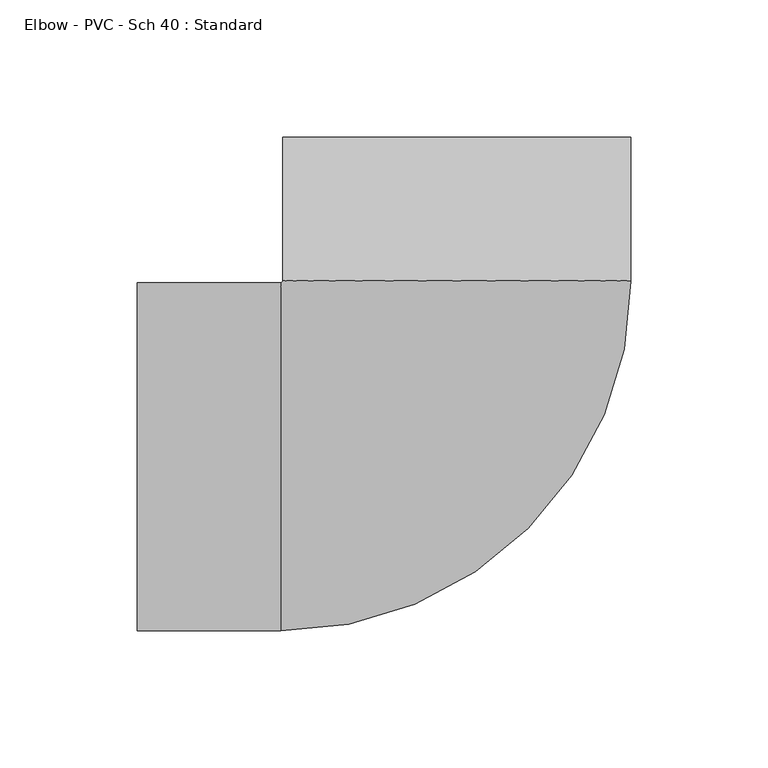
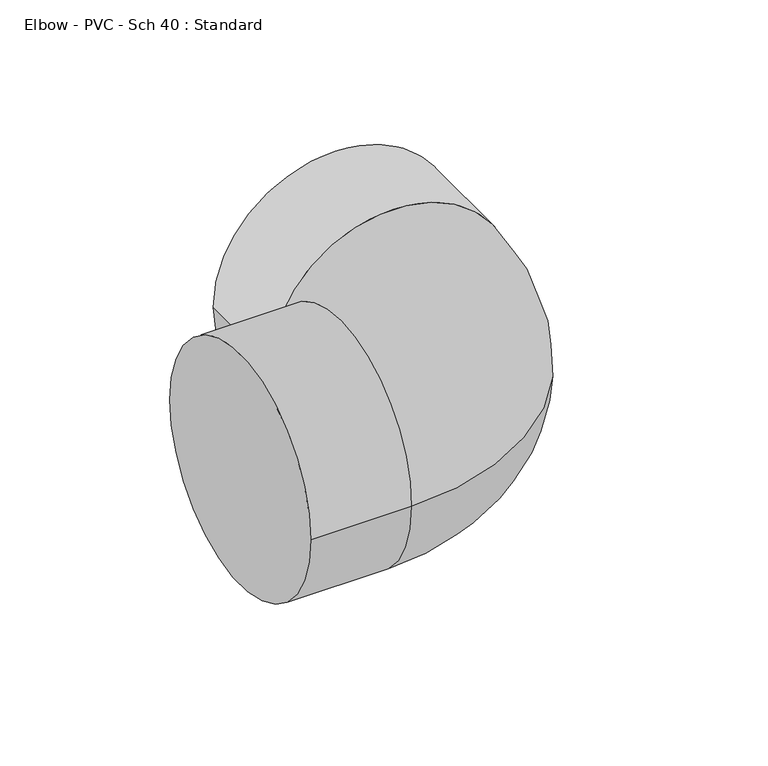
"""IFC4 building model written with IfcOpenShell, lengths in millimetres: pipe fitting geometry, Elbow - PVC - Sch 40 : Standard."""

from ifc_helpers import new_model, si_unit, point, frame, origin, place, context, project, spatial, circle_curve, ellipse_curve, trimmed, source, transform, mapped, element, save
from ifc_brep_helpers import plane_surface, cylinder_surface, revolved_surface, advanced_brep


def elbow_pvc_sch_40_standard_1e4faa0e(model_context):
    return source(origin(), model_context, "Body", "AdvancedBrep", [
        advanced_brep(
        [(-116.6281483, -63.5, 0.0), (-116.6281483, 63.5, 0.0), (-64.2279483, -63.5, 0.0), (-64.2279483, 63.5, 0.0), (-63.4341987, 64.2929372, 0.0), (63.5657347, 64.162892, 0.0), (63.6193914, 116.5630645, 0.0), (-63.380542, 116.6931097, 0.0)],
        [
            (0, 1, circle_curve(frame((-116.6281483, 0.0, 0.0), z_axis=(-1.0, 0.0, 0.0), x_axis=(0.0, 1.0, 0.0)), 63.5)),
            (1, 0, circle_curve(frame((-116.6281483, 0.0, 0.0), z_axis=(-1.0, 0.0, 0.0), x_axis=(0.0, 1.0, 0.0)), 63.5)),
            (0, 2),
            (2, 3, circle_curve(frame((-64.2279483, 0.0, 0.0), z_axis=(-1.0, 0.0, 0.0), x_axis=(0.0, 1.0, 0.0)), 63.5)),
            (3, 1),
            (3, 2, circle_curve(frame((-64.2279483, 0.0, 0.0), z_axis=(-1.0, 0.0, 0.0), x_axis=(0.0, 1.0, 0.0)), 63.5)),
            (4, 3, circle_curve(frame((-64.2279483, 64.29375, 0.0), z_axis=(0.0, 0.0, -1.0), x_axis=(0.0, -1.0, 0.0)), 0.79375)),
            (2, 5, circle_curve(frame((-64.2279483, 64.29375, 0.0), z_axis=(0.0, 0.0, 1.0), x_axis=(0.0, -1.0, 0.0)), 127.79375)),
            (5, 4, circle_curve(frame((0.065768, 64.2279146, 0.0), z_axis=(-0.0010239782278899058, -0.9999994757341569, 0.0), x_axis=(-0.9999994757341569, 0.0010239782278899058, 0.0)), 63.5)),
            (4, 5, circle_curve(frame((0.065768, 64.2279146, 0.0), z_axis=(-0.0010239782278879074, -0.9999994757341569, 0.0), x_axis=(-0.9999994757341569, 0.0010239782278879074, 0.0)), 63.5)),
            (6, 7, circle_curve(frame((0.1194247, 116.6280871, 0.0), z_axis=(0.0010239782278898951, 0.999999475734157, 0.0), x_axis=(-0.999999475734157, 0.0010239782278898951, 0.0)), 63.5)),
            (7, 6, circle_curve(frame((0.1194247, 116.6280871, 0.0), z_axis=(0.0010239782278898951, 0.999999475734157, 0.0), x_axis=(-0.999999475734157, 0.0010239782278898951, 0.0)), 63.5)),
            (5, 6),
            (7, 4),
        ],
        [
            plane_surface(frame((-116.6281483, 0.0, 0.0), z_axis=(-1.0, 0.0, 0.0), x_axis=(0.0, 0.0, 1.0))),
            cylinder_surface(frame((-116.6281483, 0.0, 0.0), z_axis=(-1.0, 0.0, 0.0), x_axis=(0.0, 1.0, 0.0)), 63.5),
            revolved_surface(trimmed(ellipse_curve(frame((-64.2279483, 0.0, 0.0), z_axis=(-1.0, 0.0, 0.0), x_axis=(0.0, 1.0, 0.0)), 63.5, 63.5), [point((-64.2279483, -63.5, 0.0))], [point((-64.2279483, 63.5, 0.0))], True, "CARTESIAN"), (-64.2279483, 64.29375, 0.0), (0.0, 0.0, 1.0)),
            revolved_surface(trimmed(ellipse_curve(frame((-64.2279483, 0.0, 0.0), z_axis=(-1.0, 0.0, 0.0), x_axis=(0.0, 1.0, 0.0)), 63.5, 63.5), [point((-64.2279483, 63.5, 0.0))], [point((-64.2279483, -63.5, 0.0))], True, "CARTESIAN"), (-64.2279483, 64.29375, 0.0), (0.0, 0.0, 1.0)),
            plane_surface(frame((0.1194247, 116.6280871, 0.0), z_axis=(0.001023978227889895, 0.999999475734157, 0.0), x_axis=(0.0, 0.0, 1.0))),
            cylinder_surface(frame((0.065768, 64.2279146, 0.0), z_axis=(-0.0010239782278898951, -0.999999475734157, 0.0), x_axis=(-0.999999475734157, 0.0010239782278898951, 0.0)), 63.5),
        ],
        [
            (0, [[1, 2]]),
            (1, [[-1, 3, 4, 5]]),
            (1, [[-2, -5, 6, -3]]),
            (2, [[7, -4, 8, 9]]),
            (3, [[-8, -6, -7, 10]]),
            (4, [[11, 12]]),
            (5, [[-9, 13, -12, 14]]),
            (5, [[-10, -14, -11, -13]]),
        ],
    ),
    ])


if __name__ == "__main__":
    model = new_model("IFC4")
    model_context = context("Model", 3, world=origin())
    ifc_project = project(units=[si_unit("LENGTHUNIT", "METRE", prefix="MILLI")], contexts=[model_context])
    site = spatial("IfcSite", under=ifc_project)
    building = spatial("IfcBuilding", under=site)
    placement = place(None, origin())
    elbow_pvc_sch_40_standard_shape = elbow_pvc_sch_40_standard_1e4faa0e(model_context)
    element("IfcPipeFitting", 1, ObjectType="Elbow - PVC - Sch 40 : Standard", at=placement, inside=building, context=model_context, shape_type="MappedRepresentation", body=[
        mapped(elbow_pvc_sch_40_standard_shape, transform((0.0, 0.0, 0.0), x_axis=(1.0, 0.0, 0.0), y_axis=(0.0, 1.0, 0.0), z_axis=(0.0, 0.0, 1.0))),
    ])
    save(model, "model.ifc")
